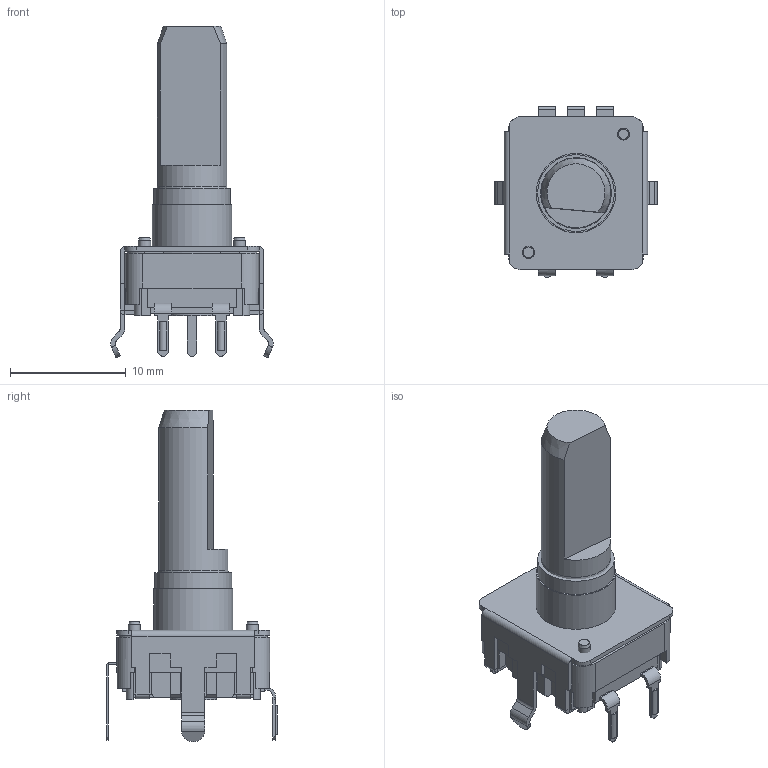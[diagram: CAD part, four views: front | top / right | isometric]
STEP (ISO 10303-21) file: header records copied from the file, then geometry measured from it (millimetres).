
FILE_DESCRIPTION(/* description */ (''),/* implementation_level */ '2;1');
FILE_NAME(/* name */ '\\Forward-ks-ad\開發專區\\X2\9AD896C45EE08A2D8A088AB2\X0\\設計機種開發作業\\X2\91CF75226A5F7A2E5C086848\X0\\ENCODER\機種開發\Encoder\DC12K\3D\CTS\DC12K2421464.stp',/* time_stamp */ '2020-06-16T11:14:43+08:00',/* author */ ('jia'),/* organization */ (''),/* preprocessor_version */ 'ST-DEVELOPER v15.2',/* originating_system */ 'Autodesk Inventor 2014',/* authorisation */ '');
FILE_SCHEMA (('AUTOMOTIVE_DESIGN { 1 0 10303 214 3 1 1 }'));
Length unit declared in the file: millimetre
Products named in the file (1): 組合1_Shrinkwrap_1
Bounding box: 14.05 x 14.76 x 28.6 mm (x, y, z)
Surface area: 1957.7 mm2 (no closed solid volume)
Topology: 0 solids, 22 shells, 305 faces, 927 edges, 617 vertices
Faces by surface type: plane 243, cylinder 58, cone 4
Full cylindrical faces by diameter (mm): 1.031 x1, 1.067 x1, 4 x1, 6 x1, 6.625 x1, 6.849 x1
Entity records: 10421 total; most frequent: CARTESIAN_POINT 1911, DIRECTION 1690, ORIENTED_EDGE 1556, EDGE_CURVE 917, LINE 724, VECTOR 724, VERTEX_POINT 616, AXIS2_PLACEMENT_3D 483
